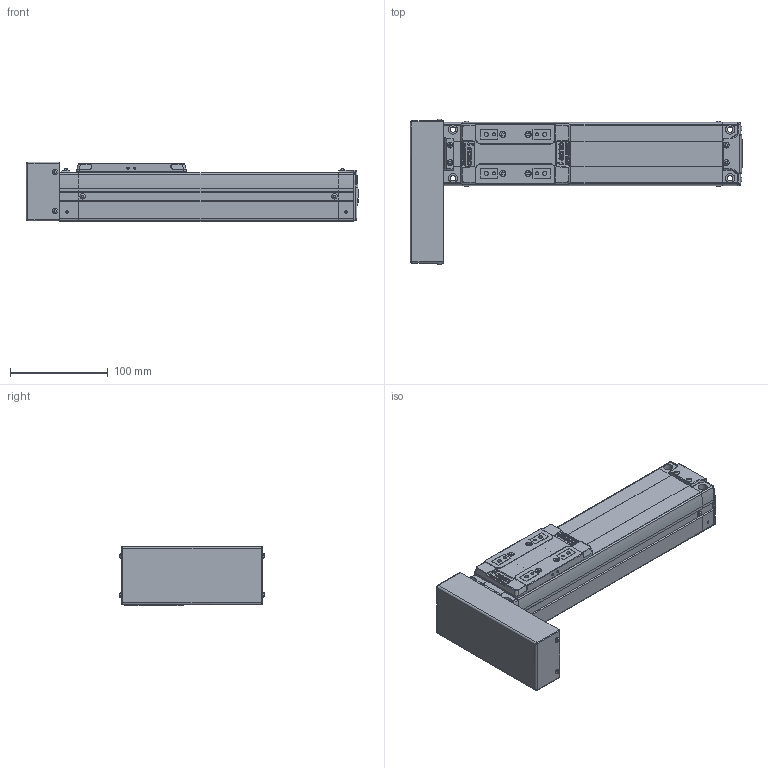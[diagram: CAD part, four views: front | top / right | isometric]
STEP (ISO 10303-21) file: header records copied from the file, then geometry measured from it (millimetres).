
FILE_DESCRIPTION(('STEP AP214'),'1');
FILE_NAME('Z:/Web/3D/SAN65/STP/SAN65ㅁㅁ-150PR.stp','2012-06-14T04:06:18',(' '),(' '),'Spatial InterOp 3D',' ',' ');
FILE_SCHEMA(('automotive_design'));
Length unit declared in the file: metre
Products named in the file (34): SAN65__-150; BODY-SAN65; REAR-SAN65; RRCV-SAN65; 스크루 : Round - M3.0 x 6.0; FRONT-SAN65; SHAFT-SAN65; RN8 x 0.75; SSFX-SAN65; SLIDE-SAN65; SLCV-SAN65; 스크루 : Countersunk - M3.0 x 6.0; ____204; PR; BTCV-SAN65; BHCS M3 X 6L
Assembly tree (33 placements, depth 4):
  ____204
    SAN65__-150
      BODY-SAN65
      REAR-SAN65
        REAR-SAN65
        RRCV-SAN65
        스크루 : Round - M3.0 x 6.0
        스크루 : Round - M3.0 x 6.0
        스크루 : Round - M3.0 x 6.0
        스크루 : Round - M3.0 x 6.0
        스크루 : Round - M3.0 x 6.0
        스크루 : Round - M3.0 x 6.0
      FRONT-SAN65
        FRONT-SAN65
        SHAFT-SAN65
        RN8 x 0.75
        SSFX-SAN65
        스크루 : Round - M3.0 x 6.0
        스크루 : Round - M3.0 x 6.0
        스크루 : Round - M3.0 x 6.0
        스크루 : Round - M3.0 x 6.0
      SLIDE-SAN65
        SLIDE-SAN65
        SLCV-SAN65
        스크루 : Countersunk - M3.0 x 6.0
        스크루 : Countersunk - M3.0 x 6.0
        스크루 : Countersunk - M3.0 x 6.0
        스크루 : Countersunk - M3.0 x 6.0
    PR
      BTCV-SAN65
      BHCS M3 X 6L
      BHCS M3 X 6L
      BHCS M3 X 6L
      BHCS M3 X 6L
Bounding box: 340.15 x 149.13 x 61 mm (x, y, z)
Volume: 1276147.3 mm3; surface area: 179786.4 mm2
Topology: 28 solids, 28 shells, 1444 faces, 3690 edges, 2400 vertices
Faces by surface type: plane 891, cylinder 408, cone 71, bspline 30, sphere 26, torus 15, extrusion 3
Full cylindrical faces by diameter (mm): 0.571 x2, 0.706 x1, 1.727 x2, 2.132 x1, 2.2 x4, 2.5 x9, 2.528 x4, 3 x6, 3.121 x2, 3.3 x4, 3.4 x8, 3.5 x6, 4.2 x18, 4.849 x4, 5 x3, 5.5 x4, 5.987 x2, 6 x6, 6.35 x1, 7 x1, 8 x4, 9.5 x4, 13 x1, 15 x1, 19 x1, 26 x1, 38.1 x1
Entity records: 59196 total; most frequent: CARTESIAN_POINT 12260, DIRECTION 7259, ORIENTED_EDGE 6868, EDGE_CURVE 3434, AXIS2_PLACEMENT_3D 2465, VERTEX_POINT 2350, VECTOR 2329, LINE 2326
